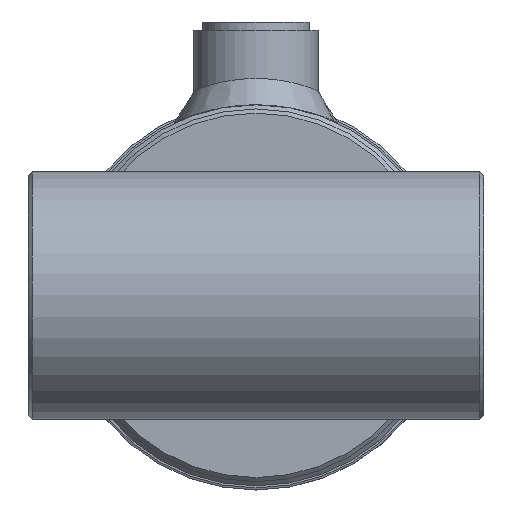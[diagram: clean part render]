
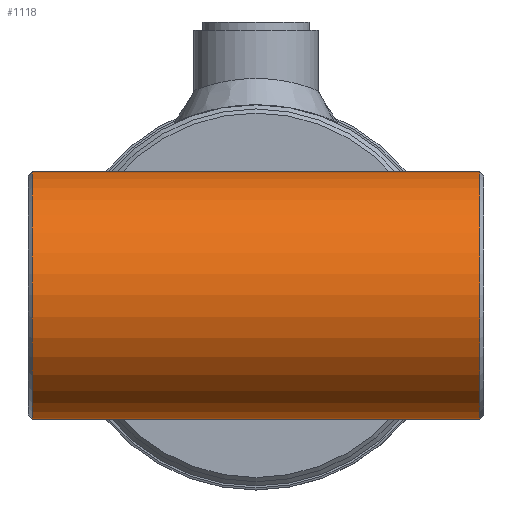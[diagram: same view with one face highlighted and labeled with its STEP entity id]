
A CAD part, left-side view. The second image highlights one B-rep face of the part: STEP entity #1118.
In plain terms, the highlighted cylindrical face has radius 30 mm (diameter 60 mm), a full revolution.
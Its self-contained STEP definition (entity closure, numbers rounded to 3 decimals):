
#1118 = ADVANCED_FACE( '', ( #2122, #2123 ), #2124, .T. );
#2122 = FACE_OUTER_BOUND( '', #7931, .T. );
#2123 = FACE_OUTER_BOUND( '', #7932, .T. );
#2124 = CYLINDRICAL_SURFACE( '', #7933, 30. );
#7931 = EDGE_LOOP( '', ( #12825 ) );
#7932 = EDGE_LOOP( '', ( #12826 ) );
#7933 = AXIS2_PLACEMENT_3D( '', #12827, #12828, #12829 );
#12825 = ORIENTED_EDGE( '', *, *, #14101, .T. );
#12826 = ORIENTED_EDGE( '', *, *, #14102, .T. );
#12827 = CARTESIAN_POINT( '', ( 0., -55., 0. ) );
#12828 = DIRECTION( '', ( 0., -1., 0. ) );
#12829 = DIRECTION( '', ( 0., 0., 1. ) );
#14101 = EDGE_CURVE( '', #15119, #15119, #15120, .F. );
#14102 = EDGE_CURVE( '', #15121, #15121, #15122, .T. );
#15119 = VERTEX_POINT( '', #18313 );
#15120 = CIRCLE( '', #18314, 30. );
#15121 = VERTEX_POINT( '', #18315 );
#15122 = CIRCLE( '', #18316, 30. );
#18313 = CARTESIAN_POINT( '', ( 0., 54., 30. ) );
#18314 = AXIS2_PLACEMENT_3D( '', #19468, #19469, #19470 );
#18315 = CARTESIAN_POINT( '', ( 0., -54., 30. ) );
#18316 = AXIS2_PLACEMENT_3D( '', #19471, #19472, #19473 );
#19468 = CARTESIAN_POINT( '', ( 0., 54., 0. ) );
#19469 = DIRECTION( '', ( 0., 1., 0. ) );
#19470 = DIRECTION( '', ( 0., 0., 1. ) );
#19471 = CARTESIAN_POINT( '', ( 0., -54., 0. ) );
#19472 = DIRECTION( '', ( 0., 1., 0. ) );
#19473 = DIRECTION( '', ( 0., 0., 1. ) );
